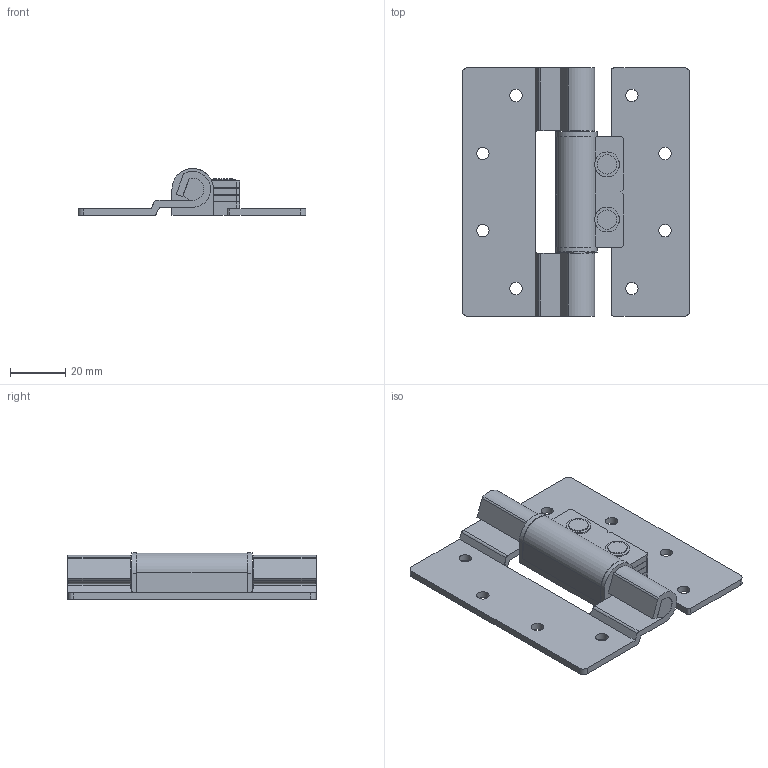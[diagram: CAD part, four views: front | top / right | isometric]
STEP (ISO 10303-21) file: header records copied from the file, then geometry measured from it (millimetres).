
FILE_DESCRIPTION( ( 'STEP AP203' ), '1' );
FILE_NAME( '//expscmdclustefs.cadenas.external/client_exchange/iodir/jobs/output/wkb73529005_no0/STEP/SFTH-05-35_2_03.stp', ' ', ( ' ' ), ( ' ' ), 'PSStep 15.0.47', 'PARTsolutions', ' ' );
FILE_SCHEMA( ( 'CONFIG_CONTROL_DESIGN' ) );
Length unit declared in the file: millimetre
Products named in the file (3): SFTH-05-35; HI_SFTH-05-35-body_a; HI_SFTH-05-35-body_b
Assembly tree (2 placements, depth 2):
  SFTH-05-35
    HI_SFTH-05-35-body_a
    HI_SFTH-05-35-body_b
Bounding box: 82.5 x 90 x 17 mm (x, y, z)
Volume: 32833.3 mm3; surface area: 21881.3 mm2
Topology: 2 solids, 2 shells, 139 faces, 389 edges, 254 vertices
Faces by surface type: plane 87, cylinder 52
Full cylindrical faces by diameter (mm): 4.5 x8, 7 x2, 8 x1, 9 x2
Entity records: 4528 total; most frequent: CARTESIAN_POINT 804, DIRECTION 762, ORIENTED_EDGE 740, EDGE_CURVE 370, AXIS2_PLACEMENT_3D 258, VERTEX_POINT 248, LINE 246, VECTOR 246
